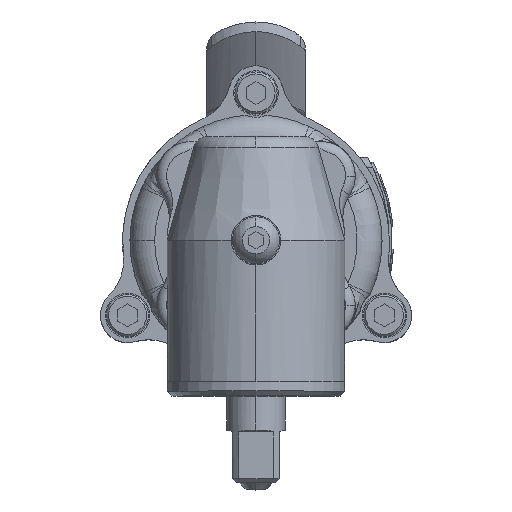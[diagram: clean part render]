
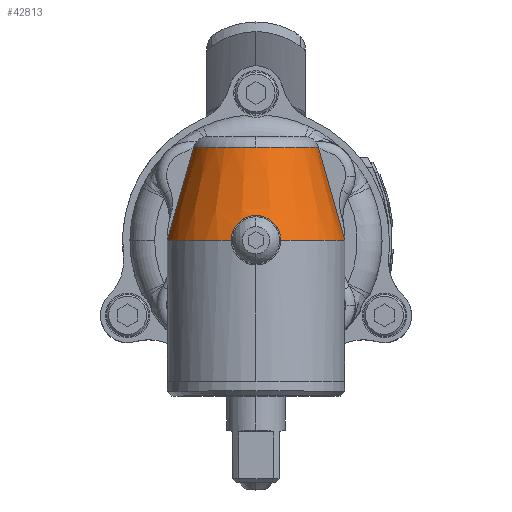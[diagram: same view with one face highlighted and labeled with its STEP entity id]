
A CAD part, top view. The second image highlights one B-rep face of the part: STEP entity #42813.
In plain terms, the highlighted conical face has half-angle 15.945 degrees and reference radius 12 mm.
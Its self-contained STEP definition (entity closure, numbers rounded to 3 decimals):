
#42632 = VERTEX_POINT ( 'NONE', #67731 ) ;
#42698 = VERTEX_POINT ( 'NONE', #67922 ) ;
#42700 = EDGE_CURVE ( 'NONE', #42701, #42698, #67921, .T. ) ;
#42701 = VERTEX_POINT ( 'NONE', #67916 ) ;
#42707 = VERTEX_POINT ( 'NONE', #67977 ) ;
#42719 = VERTEX_POINT ( 'NONE', #67997 ) ;
#42799 = ORIENTED_EDGE ( 'NONE', *, *, #42800, .F. ) ;
#42800 = EDGE_CURVE ( 'NONE', #42801, #42823, #68296, .T. ) ;
#42801 = VERTEX_POINT ( 'NONE', #68292 ) ;
#42802 = ORIENTED_EDGE ( 'NONE', *, *, #42803, .F. ) ;
#42803 = EDGE_CURVE ( 'NONE', #42632, #42801, #68291, .T. ) ;
#42813 = ADVANCED_FACE ( 'NONE', ( #68328 ), #68325, .T. ) ;
#42814 = EDGE_LOOP ( 'NONE', ( #42815, #42817, #42818, #42820, #42821, #42799, #42802 ) ) ;
#42815 = ORIENTED_EDGE ( 'NONE', *, *, #42816, .T. ) ;
#42816 = EDGE_CURVE ( 'NONE', #42632, #42707, #68313, .T. ) ;
#42817 = ORIENTED_EDGE ( 'NONE', *, *, #42826, .F. ) ;
#42818 = ORIENTED_EDGE ( 'NONE', *, *, #42819, .F. ) ;
#42819 = EDGE_CURVE ( 'NONE', #42701, #42719, #68342, .T. ) ;
#42820 = ORIENTED_EDGE ( 'NONE', *, *, #42700, .T. ) ;
#42821 = ORIENTED_EDGE ( 'NONE', *, *, #42822, .T. ) ;
#42822 = EDGE_CURVE ( 'NONE', #42698, #42823, #68337, .T. ) ;
#42823 = VERTEX_POINT ( 'NONE', #68338 ) ;
#42826 = EDGE_CURVE ( 'NONE', #42719, #42707, #68401, .T. ) ;
#67731 = CARTESIAN_POINT ( 'NONE',  ( -5., 0., 17.292 ) ) ;
#67916 = CARTESIAN_POINT ( 'NONE',  ( 12.622, 18.824, 0. ) ) ;
#67917 = DIRECTION ( 'NONE',  ( 0., 0., 1. ) ) ;
#67918 = DIRECTION ( 'NONE',  ( 0., -1., 0. ) ) ;
#67919 = CARTESIAN_POINT ( 'NONE',  ( 0., 18.824, 0. ) ) ;
#67920 = AXIS2_PLACEMENT_3D ( 'NONE', #67919, #67918, #67917 ) ;
#67921 = CIRCLE ( 'NONE', #67920, 12.622 ) ;
#67922 = CARTESIAN_POINT ( 'NONE',  ( 0., 18.824, 12.622 ) ) ;
#67977 = CARTESIAN_POINT ( 'NONE',  ( 5., 0., 17.292 ) ) ;
#67997 = CARTESIAN_POINT ( 'NONE',  ( 18., 0., 0. ) ) ;
#68287 = DIRECTION ( 'NONE',  ( 0., 0., -1. ) ) ;
#68288 = DIRECTION ( 'NONE',  ( 0., -1., 0. ) ) ;
#68289 = CARTESIAN_POINT ( 'NONE',  ( 0., 0., 0. ) ) ;
#68290 = AXIS2_PLACEMENT_3D ( 'NONE', #68289, #68288, #68287 ) ;
#68291 = CIRCLE ( 'NONE', #68290, 18. ) ;
#68292 = CARTESIAN_POINT ( 'NONE',  ( -18., 0., 0. ) ) ;
#68293 = DIRECTION ( 'NONE',  ( 0.275, 0.962, 0. ) ) ;
#68294 = VECTOR ( 'NONE', #68293, 1000. ) ;
#68295 = CARTESIAN_POINT ( 'NONE',  ( 0., 63., 0. ) ) ;
#68296 = LINE ( 'NONE', #68295, #68294 ) ;
#68312 = CARTESIAN_POINT ( 'NONE',  ( -5., 0., 17.292 ) ) ;
#68313 = B_SPLINE_CURVE_WITH_KNOTS ( 'NONE', 3,
 ( #68312, #68379, #68378, #68377, #68376, #68375, #68374, #68373, #68372, #68371, #68370, #68369, #68368, #68367, #68366, #68365, #68364, #68363, #68362, #68361, #68360, #68359, #68358, #68357, #68356, #68355, #68354, #68353, #68352, #68351, #68350, #68349, #68348, #68347, #68346, #68345, #68344, #68343 ),
 .UNSPECIFIED., .F., .F.,
 ( 4, 2, 2, 2, 2, 2, 2, 2, 2, 2, 2, 2, 2, 2, 2, 2, 2, 2, 4 ),
 ( 0., 0.001, 0.001, 0.002, 0.003, 0.004, 0.005, 0.006, 0.006, 0.007, 0.008, 0.009, 0.01, 0.011, 0.012, 0.013, 0.014, 0.015, 0.016 ),
 .UNSPECIFIED. ) ;
#68314 = DIRECTION ( 'NONE',  ( 0., 0., -1. ) ) ;
#68315 = DIRECTION ( 'NONE',  ( 0., -1., 0. ) ) ;
#68316 = CARTESIAN_POINT ( 'NONE',  ( 0., 21., 0. ) ) ;
#68325 = CONICAL_SURFACE ( 'NONE', #68326, 12., 0.278 ) ;
#68326 = AXIS2_PLACEMENT_3D ( 'NONE', #68316, #68315, #68314 ) ;
#68328 = FACE_OUTER_BOUND ( 'NONE', #42814, .T. ) ;
#68333 = DIRECTION ( 'NONE',  ( 0., 0., 1. ) ) ;
#68334 = DIRECTION ( 'NONE',  ( 0., -1., 0. ) ) ;
#68335 = CARTESIAN_POINT ( 'NONE',  ( 0., 18.824, 0. ) ) ;
#68336 = AXIS2_PLACEMENT_3D ( 'NONE', #68335, #68334, #68333 ) ;
#68337 = CIRCLE ( 'NONE', #68336, 12.622 ) ;
#68338 = CARTESIAN_POINT ( 'NONE',  ( -12.622, 18.824, 0. ) ) ;
#68339 = DIRECTION ( 'NONE',  ( 0.275, -0.962, 0. ) ) ;
#68340 = VECTOR ( 'NONE', #68339, 1000. ) ;
#68341 = CARTESIAN_POINT ( 'NONE',  ( 0., 63., 0. ) ) ;
#68342 = LINE ( 'NONE', #68341, #68340 ) ;
#68343 = CARTESIAN_POINT ( 'NONE',  ( 5., 0., 17.292 ) ) ;
#68344 = CARTESIAN_POINT ( 'NONE',  ( 5., 0.319, 17.197 ) ) ;
#68345 = CARTESIAN_POINT ( 'NONE',  ( 4.969, 0.641, 17.11 ) ) ;
#68346 = CARTESIAN_POINT ( 'NONE',  ( 4.846, 1.273, 16.957 ) ) ;
#68347 = CARTESIAN_POINT ( 'NONE',  ( 4.754, 1.582, 16.892 ) ) ;
#68348 = CARTESIAN_POINT ( 'NONE',  ( 4.51, 2.184, 16.781 ) ) ;
#68349 = CARTESIAN_POINT ( 'NONE',  ( 4.355, 2.478, 16.735 ) ) ;
#68350 = CARTESIAN_POINT ( 'NONE',  ( 3.995, 3.024, 16.665 ) ) ;
#68351 = CARTESIAN_POINT ( 'NONE',  ( 3.789, 3.279, 16.639 ) ) ;
#68352 = CARTESIAN_POINT ( 'NONE',  ( 3.324, 3.75, 16.601 ) ) ;
#68353 = CARTESIAN_POINT ( 'NONE',  ( 3.068, 3.962, 16.589 ) ) ;
#68354 = CARTESIAN_POINT ( 'NONE',  ( 2.523, 4.329, 16.574 ) ) ;
#68355 = CARTESIAN_POINT ( 'NONE',  ( 2.231, 4.487, 16.571 ) ) ;
#68356 = CARTESIAN_POINT ( 'NONE',  ( 1.619, 4.742, 16.569 ) ) ;
#68357 = CARTESIAN_POINT ( 'NONE',  ( 1.304, 4.838, 16.57 ) ) ;
#68358 = CARTESIAN_POINT ( 'NONE',  ( 0.659, 4.967, 16.571 ) ) ;
#68359 = CARTESIAN_POINT ( 'NONE',  ( 0.325, 5., 16.571 ) ) ;
#68360 = CARTESIAN_POINT ( 'NONE',  ( -0.334, 5., 16.571 ) ) ;
#68361 = CARTESIAN_POINT ( 'NONE',  ( -0.66, 4.967, 16.571 ) ) ;
#68362 = CARTESIAN_POINT ( 'NONE',  ( -1.147, 4.87, 16.57 ) ) ;
#68363 = CARTESIAN_POINT ( 'NONE',  ( -1.309, 4.828, 16.57 ) ) ;
#68364 = CARTESIAN_POINT ( 'NONE',  ( -1.625, 4.731, 16.569 ) ) ;
#68365 = CARTESIAN_POINT ( 'NONE',  ( -1.78, 4.675, 16.57 ) ) ;
#68366 = CARTESIAN_POINT ( 'NONE',  ( -2.235, 4.485, 16.571 ) ) ;
#68367 = CARTESIAN_POINT ( 'NONE',  ( -2.526, 4.328, 16.574 ) ) ;
#68368 = CARTESIAN_POINT ( 'NONE',  ( -3.076, 3.956, 16.589 ) ) ;
#68369 = CARTESIAN_POINT ( 'NONE',  ( -3.329, 3.745, 16.601 ) ) ;
#68370 = CARTESIAN_POINT ( 'NONE',  ( -3.79, 3.278, 16.639 ) ) ;
#68371 = CARTESIAN_POINT ( 'NONE',  ( -4., 3.017, 16.665 ) ) ;
#68372 = CARTESIAN_POINT ( 'NONE',  ( -4.36, 2.47, 16.737 ) ) ;
#68373 = CARTESIAN_POINT ( 'NONE',  ( -4.511, 2.181, 16.781 ) ) ;
#68374 = CARTESIAN_POINT ( 'NONE',  ( -4.694, 1.729, 16.865 ) ) ;
#68375 = CARTESIAN_POINT ( 'NONE',  ( -4.749, 1.574, 16.896 ) ) ;
#68376 = CARTESIAN_POINT ( 'NONE',  ( -4.841, 1.263, 16.962 ) ) ;
#68377 = CARTESIAN_POINT ( 'NONE',  ( -4.879, 1.106, 16.998 ) ) ;
#68378 = CARTESIAN_POINT ( 'NONE',  ( -4.97, 0.636, 17.111 ) ) ;
#68379 = CARTESIAN_POINT ( 'NONE',  ( -5., 0.319, 17.197 ) ) ;
#68397 = DIRECTION ( 'NONE',  ( 0., 0., -1. ) ) ;
#68398 = DIRECTION ( 'NONE',  ( 0., -1., 0. ) ) ;
#68399 = CARTESIAN_POINT ( 'NONE',  ( 0., 0., 0. ) ) ;
#68400 = AXIS2_PLACEMENT_3D ( 'NONE', #68399, #68398, #68397 ) ;
#68401 = CIRCLE ( 'NONE', #68400, 18. ) ;
